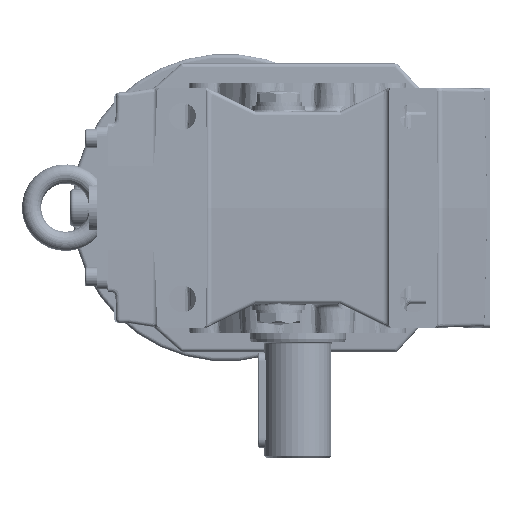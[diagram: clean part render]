
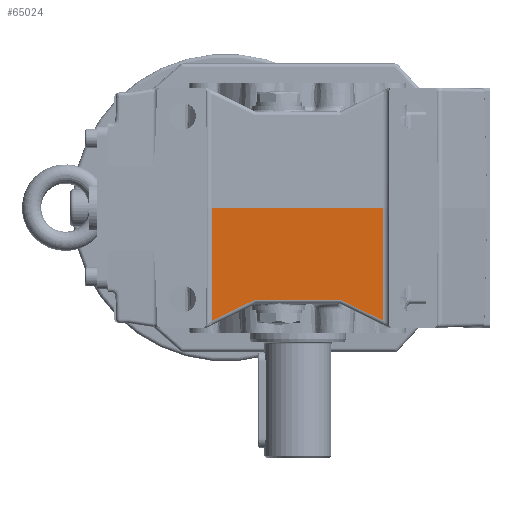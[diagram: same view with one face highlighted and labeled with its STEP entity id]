
A CAD part, left-side view. The second image highlights one B-rep face of the part: STEP entity #65024.
In plain terms, the highlighted planar face has unit normal (-1, 0, -0.026).
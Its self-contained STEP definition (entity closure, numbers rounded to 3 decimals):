
#21835=CARTESIAN_POINT('',(-88.309,-44.5,0.));
#21836=VERTEX_POINT('',#21835);
#21844=CARTESIAN_POINT('',(-86.768,-44.5,-58.854));
#21845=VERTEX_POINT('',#21844);
#21846=CARTESIAN_POINT('',(-88.309,-44.5,0.));
#21847=DIRECTION('',(0.026,0.,-1.));
#21848=VECTOR('',#21847,58.875);
#21849=LINE('',#21846,#21848);
#21850=EDGE_CURVE('',#21836,#21845,#21849,.T.);
#22340=CARTESIAN_POINT('',(-88.309,44.5,0.));
#22341=VERTEX_POINT('',#22340);
#22406=CARTESIAN_POINT('',(-86.768,44.5,-58.854));
#22407=VERTEX_POINT('',#22406);
#22415=CARTESIAN_POINT('',(-86.768,44.5,-58.854));
#22416=DIRECTION('',(-0.026,0.0,1.));
#22417=VECTOR('',#22416,58.875);
#22418=LINE('',#22415,#22417);
#22419=EDGE_CURVE('',#22407,#22341,#22418,.T.);
#64592=CARTESIAN_POINT('',(-88.309,-44.5,0.));
#64593=DIRECTION('',(0.0,1.0,0.0));
#64594=VECTOR('',#64593,89.);
#64595=LINE('',#64592,#64594);
#64596=EDGE_CURVE('',#22341,#21836,#64595,.F.);
#64849=CARTESIAN_POINT('',(-87.051,-22.464,-48.052));
#64850=VERTEX_POINT('',#64849);
#64851=CARTESIAN_POINT('',(-86.768,-44.5,-58.854));
#64852=DIRECTION('',(-0.012,0.898,0.44));
#64853=VECTOR('',#64852,24.543);
#64854=LINE('',#64851,#64853);
#64855=EDGE_CURVE('',#21845,#64850,#64854,.T.);
#64879=CARTESIAN_POINT('',(-87.051,22.464,-48.052));
#64880=VERTEX_POINT('',#64879);
#64881=CARTESIAN_POINT('',(-87.051,-22.464,-48.052));
#64882=DIRECTION('',(0.0,1.0,0.0));
#64883=VECTOR('',#64882,44.928);
#64884=LINE('',#64881,#64883);
#64885=EDGE_CURVE('',#64850,#64880,#64884,.T.);
#64912=CARTESIAN_POINT('',(-87.051,22.464,-48.052));
#64913=DIRECTION('',(0.012,0.898,-0.44));
#64914=VECTOR('',#64913,24.543);
#64915=LINE('',#64912,#64914);
#64916=EDGE_CURVE('',#64880,#22407,#64915,.T.);
#65011=CARTESIAN_POINT('',(-88.309,-97.,-0.017));
#65012=DIRECTION('',(1.,0.,0.026));
#65013=DIRECTION('',(0.026,0.,-1.));
#65014=AXIS2_PLACEMENT_3D('',#65011,#65012,#65013);
#65015=PLANE('',#65014);
#65016=ORIENTED_EDGE('',*,*,#64855,.F.);
#65017=ORIENTED_EDGE('',*,*,#21850,.F.);
#65018=ORIENTED_EDGE('',*,*,#64596,.F.);
#65019=ORIENTED_EDGE('',*,*,#22419,.F.);
#65020=ORIENTED_EDGE('',*,*,#64916,.F.);
#65021=ORIENTED_EDGE('',*,*,#64885,.F.);
#65022=EDGE_LOOP('',(#65016,#65017,#65018,#65019,#65020,#65021));
#65023=FACE_OUTER_BOUND('',#65022,.T.);
#65024=ADVANCED_FACE('',(#65023),#65015,.F.);
